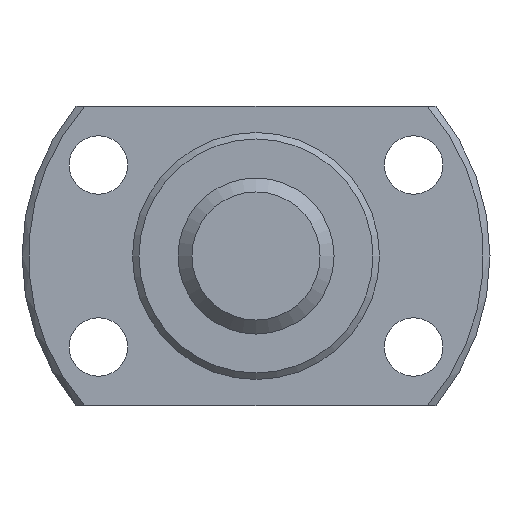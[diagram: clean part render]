
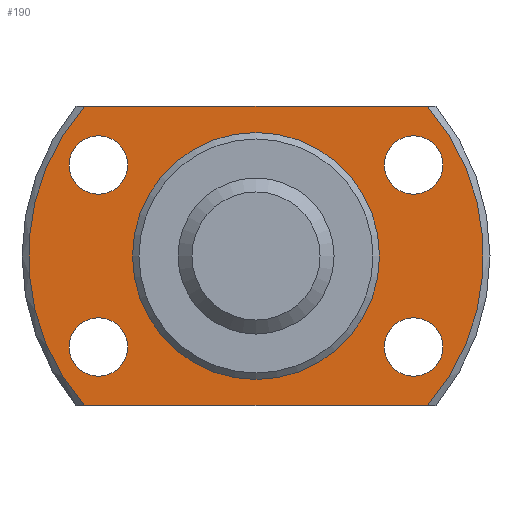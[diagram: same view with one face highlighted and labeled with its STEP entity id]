
A CAD part, left-side view. The second image highlights one B-rep face of the part: STEP entity #190.
In plain terms, the highlighted planar face has unit normal (-1, 0, 0) as drawn and (1, 0, 0) by its records, which use the part's own axes.
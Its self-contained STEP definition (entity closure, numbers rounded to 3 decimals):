
#190 = ADVANCED_FACE( '', ( #263, #264, #265, #266, #267, #268 ), #269, .T. );
#263 = FACE_OUTER_BOUND( '', #373, .T. );
#264 = FACE_BOUND( '', #374, .T. );
#265 = FACE_BOUND( '', #375, .T. );
#266 = FACE_BOUND( '', #376, .T. );
#267 = FACE_BOUND( '', #377, .T. );
#268 = FACE_BOUND( '', #378, .T. );
#269 = PLANE( '', #379 );
#373 = EDGE_LOOP( '', ( #558, #559, #560, #561 ) );
#374 = EDGE_LOOP( '', ( #562 ) );
#375 = EDGE_LOOP( '', ( #563 ) );
#376 = EDGE_LOOP( '', ( #564 ) );
#377 = EDGE_LOOP( '', ( #565 ) );
#378 = EDGE_LOOP( '', ( #566 ) );
#379 = AXIS2_PLACEMENT_3D( '', #567, #568, #569 );
#558 = ORIENTED_EDGE( '', *, *, #712, .T. );
#559 = ORIENTED_EDGE( '', *, *, #714, .T. );
#560 = ORIENTED_EDGE( '', *, *, #716, .T. );
#561 = ORIENTED_EDGE( '', *, *, #717, .T. );
#562 = ORIENTED_EDGE( '', *, *, #718, .F. );
#563 = ORIENTED_EDGE( '', *, *, #719, .F. );
#564 = ORIENTED_EDGE( '', *, *, #720, .F. );
#565 = ORIENTED_EDGE( '', *, *, #721, .F. );
#566 = ORIENTED_EDGE( '', *, *, #722, .F. );
#567 = CARTESIAN_POINT( '', ( 5., 9.3, 0. ) );
#568 = DIRECTION( '', ( 1., 0., 0. ) );
#569 = DIRECTION( '', ( 0., 0., -1. ) );
#712 = EDGE_CURVE( '', #792, #805, #807, .T. );
#714 = EDGE_CURVE( '', #805, #808, #811, .T. );
#716 = EDGE_CURVE( '', #808, #813, #814, .T. );
#717 = EDGE_CURVE( '', #813, #792, #815, .T. );
#718 = EDGE_CURVE( '', #816, #816, #817, .T. );
#719 = EDGE_CURVE( '', #818, #818, #819, .T. );
#720 = EDGE_CURVE( '', #820, #820, #821, .T. );
#721 = EDGE_CURVE( '', #822, #822, #823, .T. );
#722 = EDGE_CURVE( '', #824, #824, #825, .T. );
#792 = VERTEX_POINT( '', #920 );
#805 = VERTEX_POINT( '', #945 );
#807 = LINE( '', #950, #951 );
#808 = VERTEX_POINT( '', #952 );
#811 = CIRCLE( '', #958, 17.5 );
#813 = VERTEX_POINT( '', #960 );
#814 = LINE( '', #961, #962 );
#815 = CIRCLE( '', #963, 17.5 );
#816 = VERTEX_POINT( '', #964 );
#817 = CIRCLE( '', #965, 9.3 );
#818 = VERTEX_POINT( '', #966 );
#819 = CIRCLE( '', #967, 2.25 );
#820 = VERTEX_POINT( '', #968 );
#821 = CIRCLE( '', #969, 2.25 );
#822 = VERTEX_POINT( '', #970 );
#823 = CIRCLE( '', #971, 2.25 );
#824 = VERTEX_POINT( '', #972 );
#825 = CIRCLE( '', #973, 2.25 );
#920 = CARTESIAN_POINT( '', ( 5., -13.191, -11.5 ) );
#945 = CARTESIAN_POINT( '', ( 5., 13.191, -11.5 ) );
#950 = CARTESIAN_POINT( '', ( 5., -18., -11.5 ) );
#951 = VECTOR( '', #1086, 1000. );
#952 = CARTESIAN_POINT( '', ( 5., 13.191, 11.5 ) );
#958 = AXIS2_PLACEMENT_3D( '', #1087, #1088, #1089 );
#960 = CARTESIAN_POINT( '', ( 5., -13.191, 11.5 ) );
#961 = CARTESIAN_POINT( '', ( 5., 18., 11.5 ) );
#962 = VECTOR( '', #1093, 1000. );
#963 = AXIS2_PLACEMENT_3D( '', #1094, #1095, #1096 );
#964 = CARTESIAN_POINT( '', ( 5., 0., -9.3 ) );
#965 = AXIS2_PLACEMENT_3D( '', #1097, #1098, #1099 );
#966 = CARTESIAN_POINT( '', ( 5., 12.124, 4.75 ) );
#967 = AXIS2_PLACEMENT_3D( '', #1100, #1101, #1102 );
#968 = CARTESIAN_POINT( '', ( 5., -12.124, 4.75 ) );
#969 = AXIS2_PLACEMENT_3D( '', #1103, #1104, #1105 );
#970 = CARTESIAN_POINT( '', ( 5., -12.124, -9.25 ) );
#971 = AXIS2_PLACEMENT_3D( '', #1106, #1107, #1108 );
#972 = CARTESIAN_POINT( '', ( 5., 12.124, -9.25 ) );
#973 = AXIS2_PLACEMENT_3D( '', #1109, #1110, #1111 );
#1086 = DIRECTION( '', ( 0., 1., 0. ) );
#1087 = CARTESIAN_POINT( '', ( 5., 0., 0. ) );
#1088 = DIRECTION( '', ( 1., 0., 0. ) );
#1089 = DIRECTION( '', ( 0., 0., -1. ) );
#1093 = DIRECTION( '', ( 0., -1., 0. ) );
#1094 = CARTESIAN_POINT( '', ( 5., 0., 0. ) );
#1095 = DIRECTION( '', ( 1., 0., 0. ) );
#1096 = DIRECTION( '', ( 0., 0., -1. ) );
#1097 = CARTESIAN_POINT( '', ( 5., 0., 0. ) );
#1098 = DIRECTION( '', ( 1., 0., 0. ) );
#1099 = DIRECTION( '', ( 0., 0., -1. ) );
#1100 = CARTESIAN_POINT( '', ( 5., 12.124, 7. ) );
#1101 = DIRECTION( '', ( 1., 0., 0. ) );
#1102 = DIRECTION( '', ( 0., 0., -1. ) );
#1103 = CARTESIAN_POINT( '', ( 5., -12.124, 7. ) );
#1104 = DIRECTION( '', ( 1., 0., 0. ) );
#1105 = DIRECTION( '', ( 0., 0., -1. ) );
#1106 = CARTESIAN_POINT( '', ( 5., -12.124, -7. ) );
#1107 = DIRECTION( '', ( 1., 0., 0. ) );
#1108 = DIRECTION( '', ( 0., 0., -1. ) );
#1109 = CARTESIAN_POINT( '', ( 5., 12.124, -7. ) );
#1110 = DIRECTION( '', ( 1., 0., 0. ) );
#1111 = DIRECTION( '', ( 0., 0., -1. ) );
